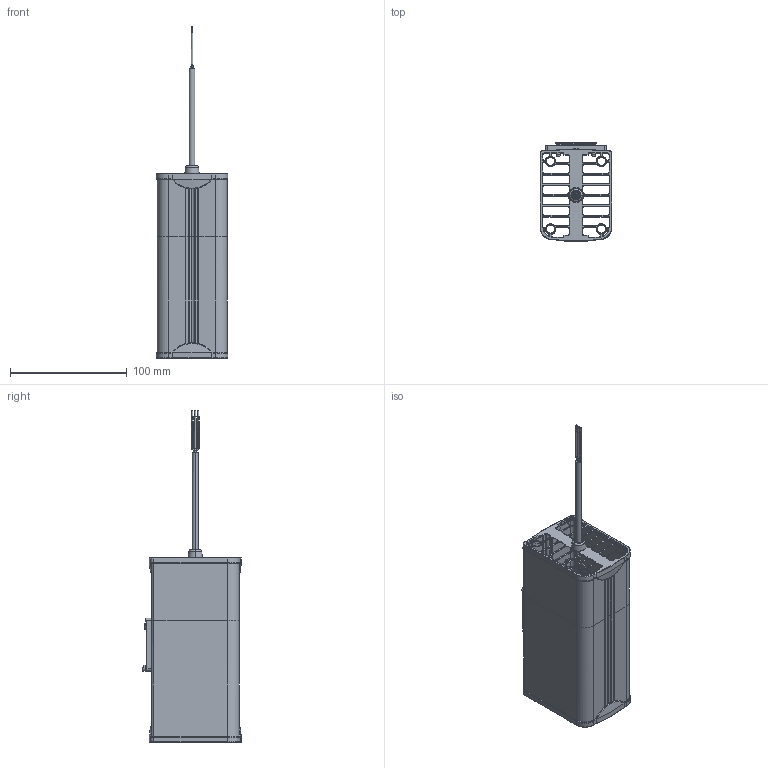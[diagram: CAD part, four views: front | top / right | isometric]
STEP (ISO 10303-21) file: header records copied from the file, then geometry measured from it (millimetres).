
FILE_DESCRIPTION(/* description */ (''),/* implementation_level */ '2;1');
FILE_NAME(/* name */ 'HWM080',/* time_stamp */ '2018-04-17T11:09:56+02:00',/* author */ (''),/* organization */ (''),/* preprocessor_version */ 'ST-DEVELOPER v14',/* originating_system */ '',/* authorisation */ '');
FILE_SCHEMA (('CONFIG_CONTROL_DESIGN'));
Length unit declared in the file: millimetre
Products named in the file (5): Document; (#92566) Rivetto; (#85379) Base plastica CLIP; (#78235) Molla CLIP; (#28001) Cavo Alimentazione tripolare_Configurazione deformata (cavo i
nstallato)
Assembly tree (5 placements, depth 2):
  Document
    (#92566) Rivetto  x2
    (#85379) Base plastica CLIP
    (#78235) Molla CLIP
    (#28001) Cavo Alimentazione tripolare_Configurazione deformata (cavo i
nstallato)
Bounding box: 61.57 x 84.86 x 285 mm (x, y, z)
Volume: 9713.8 mm3; surface area: 59690 mm2
Topology: 5 solids, 8 shells, 1199 faces, 3247 edges, 2060 vertices
Faces by surface type: bspline 1005, plane 194
Entity records: 70845 total; most frequent: CARTESIAN_POINT 53785, ORIENTED_EDGE 5812, EDGE_CURVE 3215, VERTEX_POINT 2046, EDGE_LOOP 1260, B_SPLINE_CURVE_WITH_KNOTS 1195, ADVANCED_FACE 1186, FACE_OUTER_BOUND 1186
